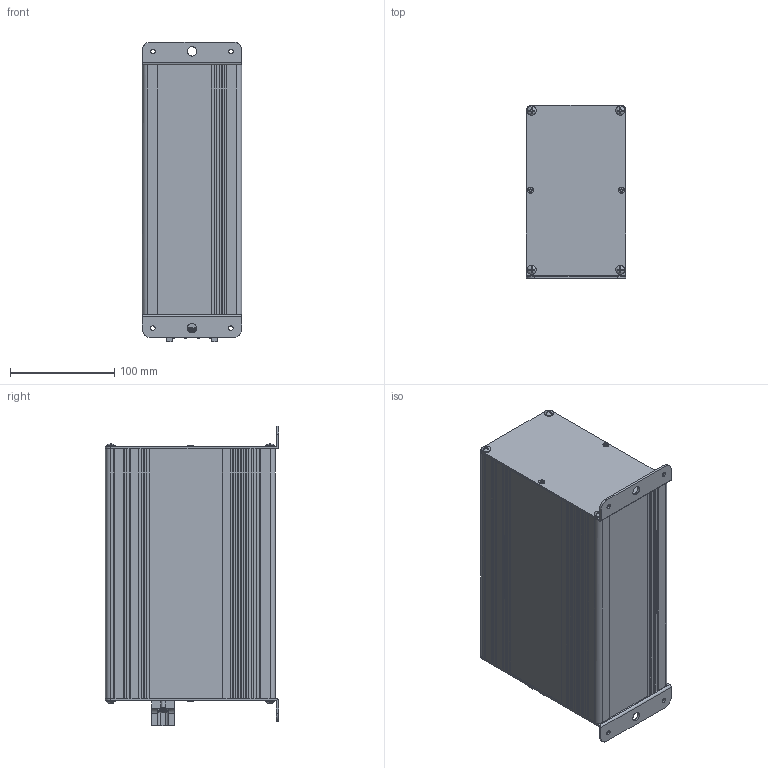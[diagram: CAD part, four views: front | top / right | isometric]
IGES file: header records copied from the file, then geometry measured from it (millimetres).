
Bounding box: 95.62 x 166.42 x 288.29 mm (x, y, z)
Volume: 425301.1 mm3; surface area: 354822.9 mm2
Topology: 1 solids, 1 shells, 912 faces, 2725 edges, 1817 vertices
Faces by surface type: bspline 912
